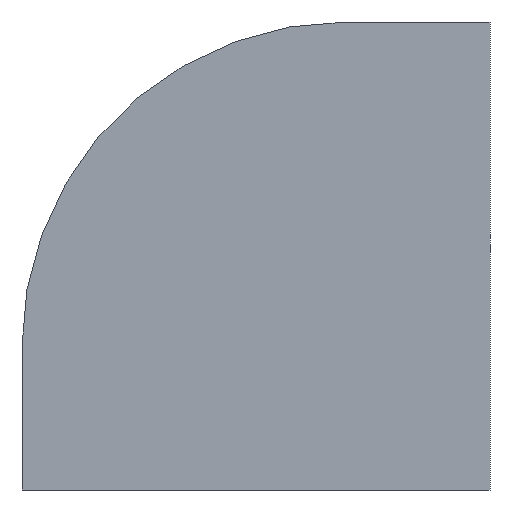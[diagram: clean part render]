
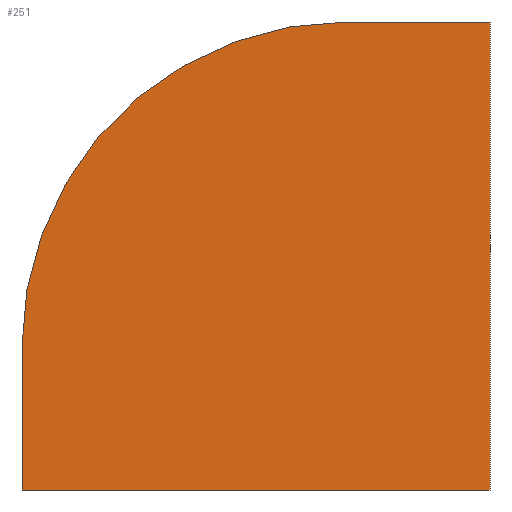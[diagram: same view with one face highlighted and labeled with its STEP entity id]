
A CAD part, front view. The second image highlights one B-rep face of the part: STEP entity #251.
In plain terms, the highlighted planar face has unit normal (0, -1, 0).
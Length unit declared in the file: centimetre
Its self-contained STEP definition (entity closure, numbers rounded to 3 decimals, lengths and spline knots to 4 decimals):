
#2 = VERTEX_POINT ( 'NONE', #62 ) ;
#14 = CARTESIAN_POINT ( 'NONE',  ( 0., 0., 0. ) ) ;
#29 = CIRCLE ( 'NONE', #194, 692.4444 ) ;
#37 = VECTOR ( 'NONE', #159, 100. ) ;
#41 = LINE ( 'NONE', #249, #37 ) ;
#42 = LINE ( 'NONE', #329, #328 ) ;
#51 = EDGE_CURVE ( 'NONE', #2, #55, #222, .T. ) ;
#54 = DIRECTION ( 'NONE',  ( 0., -1., 0. ) ) ;
#55 = VERTEX_POINT ( 'NONE', #14 ) ;
#60 = VERTEX_POINT ( 'NONE', #361 ) ;
#62 = CARTESIAN_POINT ( 'NONE',  ( 0., 0., 307.5556 ) ) ;
#68 = ORIENTED_EDGE ( 'NONE', *, *, #247, .T. ) ;
#75 = CARTESIAN_POINT ( 'NONE',  ( 1000., 0., 0. ) ) ;
#76 = EDGE_CURVE ( 'NONE', #236, #120, #42, .T. ) ;
#106 = DIRECTION ( 'NONE',  ( 0., 0., -1. ) ) ;
#120 = VERTEX_POINT ( 'NONE', #75 ) ;
#124 = EDGE_LOOP ( 'NONE', ( #211, #68, #246, #287, #229 ) ) ;
#141 = FACE_OUTER_BOUND ( 'NONE', #124, .T. ) ;
#142 = CARTESIAN_POINT ( 'NONE',  ( 1000., 0., 1000. ) ) ;
#143 = CARTESIAN_POINT ( 'NONE',  ( 692.4444, 0., 307.5556 ) ) ;
#159 = DIRECTION ( 'NONE',  ( 1., 0., 0. ) ) ;
#169 = VECTOR ( 'NONE', #106, 100. ) ;
#171 = CARTESIAN_POINT ( 'NONE',  ( 0., 0., 1000. ) ) ;
#174 = PLANE ( 'NONE',  #358 ) ;
#179 = EDGE_CURVE ( 'NONE', #55, #120, #41, .T. ) ;
#194 = AXIS2_PLACEMENT_3D ( 'NONE', #143, #54, #258 ) ;
#211 = ORIENTED_EDGE ( 'NONE', *, *, #234, .F. ) ;
#222 = LINE ( 'NONE', #248, #169 ) ;
#226 = DIRECTION ( 'NONE',  ( 0., 0., -1. ) ) ;
#227 = LINE ( 'NONE', #171, #366 ) ;
#229 = ORIENTED_EDGE ( 'NONE', *, *, #76, .F. ) ;
#234 = EDGE_CURVE ( 'NONE', #60, #236, #227, .T. ) ;
#236 = VERTEX_POINT ( 'NONE', #142 ) ;
#246 = ORIENTED_EDGE ( 'NONE', *, *, #51, .T. ) ;
#247 = EDGE_CURVE ( 'NONE', #60, #2, #29, .T. ) ;
#248 = CARTESIAN_POINT ( 'NONE',  ( 0., 0., 1000. ) ) ;
#249 = CARTESIAN_POINT ( 'NONE',  ( 0., 0., 0. ) ) ;
#251 = ADVANCED_FACE ( 'NONE', ( #141 ), #174, .F. ) ;
#258 = DIRECTION ( 'NONE',  ( 0., 0., 1. ) ) ;
#283 = CARTESIAN_POINT ( 'NONE',  ( 0., 0., 1000. ) ) ;
#284 = DIRECTION ( 'NONE',  ( 0., 1., 0. ) ) ;
#287 = ORIENTED_EDGE ( 'NONE', *, *, #179, .T. ) ;
#314 = DIRECTION ( 'NONE',  ( 1., 0., 0. ) ) ;
#328 = VECTOR ( 'NONE', #226, 100. ) ;
#329 = CARTESIAN_POINT ( 'NONE',  ( 1000., 0., 1000. ) ) ;
#338 = DIRECTION ( 'NONE',  ( 0., 0., 1. ) ) ;
#358 = AXIS2_PLACEMENT_3D ( 'NONE', #283, #284, #338 ) ;
#361 = CARTESIAN_POINT ( 'NONE',  ( 692.4444, 0., 1000. ) ) ;
#366 = VECTOR ( 'NONE', #314, 100. ) ;
